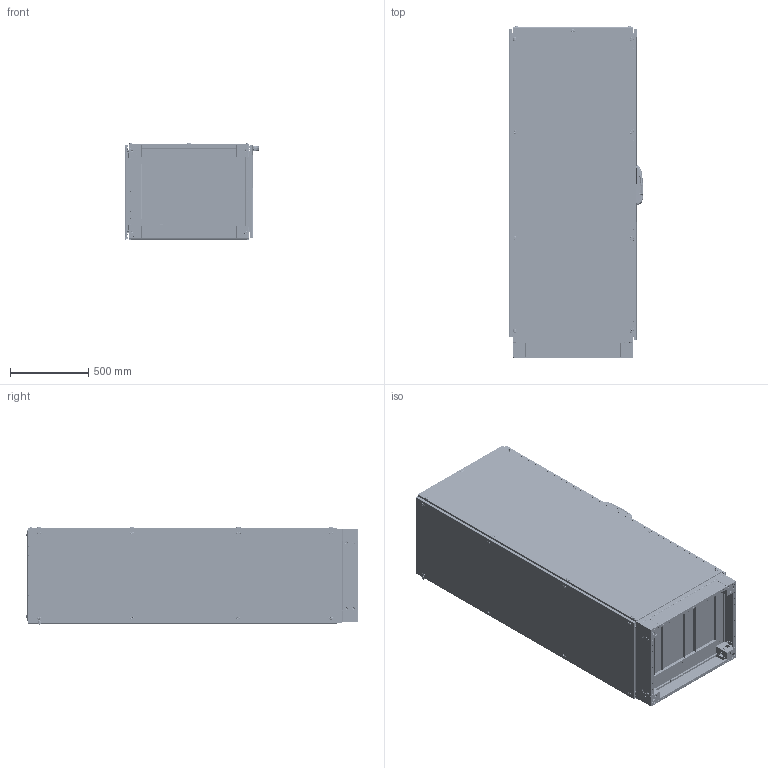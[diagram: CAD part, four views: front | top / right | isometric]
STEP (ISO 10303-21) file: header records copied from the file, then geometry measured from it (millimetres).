
FILE_DESCRIPTION (( 'STEP AP203' ), '1' );
FILE_NAME ('706.208 600x2000x800.STEP', '2020-04-04T15:42:09', ( '' ), ( '' ), 'SwSTEP 2.0', 'SolidWorks 2019', '' );
FILE_SCHEMA (( 'CONFIG_CONTROL_DESIGN' ));
Length unit declared in the file: millimetre
Products named in the file (127): PB 14.0004 M6 HAVÞA PLASTÝK CÝVATA; MP 18.7631 Arka Kapak; Teos-Neo MP Durdurucu; delikli profil cerceve_600x2000; BAZA KÖÞES_SAG; MP 18.7631 Kol-Cark; M6 HAVÞA PLASTÝK CÝVATA; 03-TABAN SACI SURGU_PP 12.0030 - 600; BAZA SISTEMIV2-6 baza kapaðý201550x40; socket button head cap screw_am_B18.3.4M - 8 x 1.25 x 16 SBHCS --N; 03-TABAN SACI U1 04-2012_PP 12.0040 - 600-75; kapali dikey profilkenetli_ita oluklu10-aaaaaaaaaaaa-1_600; yan arka kapak baglantý saci orta; 03-2012 sac kilit dil 10-2010 alt ust; ENINE DELIKLI PROFIL_600; flat head screw_am_B18.6.7M - M6 x 1.0 x 20 Type I Cross Recessed FHMS --20N; Mirror03-KOSE PUNT; 03-KOSE PUNT; kafes somun kafes; TEOS V2 BAZA S嵞TEM廆600X800; M6 KAFES SOMU2015; MP 18.7631 Modul; Teos-Neo MP Durdurucu Destek; mentese orta 09-201; BAZA KÖÞES_SOL; 706.208 600x2000x800; TEOS iskelet_600x2000x800; MP 18.7631 32002136; on Kapi 10-2017 2 mm dkp_PP 17.1082 600x2000; TEOS Kilit Üst Çubuk Montaj_2000H; M8 Somun Kafesi_m8; TEOS Kilit Çubuk Dili; Teos-Neo 3mm MOUNTING PLATE_TEOS MP 600x2000; kose rondela kabartmaSIZ 10; M8 KAFES SOMUN_m8; MP 18.7631 Kayar Parça; socket button head cap screw_am_B18.3.4M - 12 x 1.75 x 30 SBHCS --N; BAZA SISTEMIV2-6 baza kapaðý201550x40_TEKPAN LOGOLU; V3 -2011 DT BAZA KAPAGI yan_PP 12.0052 - 800; mentese bakýr kapak 09-201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
Assembly tree (393 placements, depth 7):
  706.208 600x2000x800
    TEOS iskelet_600x2000x800
      kapali dikey profilkenetli_ita oluklu10-aaaaaaaaaaaa-1_2000   x4
      kapali dikey profilkenetli_ita oluklu10-aaaaaaaaaaaa-1_800  x4
      kapali dikey profilkenetli_ita oluklu10-aaaaaaaaaaaa-1_600  x4
      L KOSE DESTEKorj1  x8
      kose rondela kabartmaSIZ 10  x15
      kose rondela kabartmaSIZ 12
      MP 11.0140 TEOS ALUMINYUM KOSE APPROVED 16.08.2010  x8
      M5 DÝKEY PROFÝL RONDELA  x16
      percinli taban-vidalý kapak-kose pls yok_701.680-60X80 ALT
        03-taban genislik percinli 04 - 2012 100-120_PP 12.0019 - 600  x2
        03taban derinlik percinli_PP 12.0026 - 800  x2
        03-KOSE PUNT_PP 12.0027
        03-KOSE PUNT
        Mirror03-KOSE PUNT  x2
        TEOS V2 BAZA S嵞TEM廆600X800
          BAZA KÖÞES_SAG
            V2 BAZA KOSESI2015_100
            BAZA SISTEMIV2-6 baza kapaðý201550x40_TEKPAN LOGOLU
            M6 KAFES SOMU2015
              kafes somun kafes
              somu
            M6 KAFES SOMU2015
              kafes somun kafes
              somu
          V2 -2011 DT BAZA KAPAGI ON_PP 12.0045 - 600  x2
          BAZA KÖÞES_SOL
            V2 BAZA KOSESI2015_100
            BAZA SISTEMIV2-6 baza kapaðý201550x40
            M6 KAFES SOMU2015
              kafes somun kafes
              somu
            M6 KAFES SOMU2015
              kafes somun kafes
              somu
          BAZA KÖÞES_SAG
            V2 BAZA KOSESI2015_100
            BAZA SISTEMIV2-6 baza kapaðý201550x40_TEKPAN LOGOLU
            M6 KAFES SOMU2015
              kafes somun kafes
              somu
            M6 KAFES SOMU2015
              kafes somun kafes
              somu
          BAZA KÖÞES_SOL
            V2 BAZA KOSESI2015_100
            BAZA SISTEMIV2-6 baza kapaðý201550x40
            M6 KAFES SOMU2015
              kafes somun kafes
              somu
            M6 KAFES SOMU2015
              kafes somun kafes
              somu
          V3 -2011 DT BAZA KAPAGI yan_PP 12.0052 - 800  x2
          flat head screw_am_B18.6.7M - M6 x 1.0 x 20 Type I Cross Recessed FHMS --20N  x6
        03-TABAN SACI SURGU_PP 12.0030 - 600  x2
        03-TABAN SACI U1 04-2012_PP 12.0040 - 600-75
        03-TABAN SACI U1 04-2012_PP 12.0035 - 600-200  x2
        mp aLT DAYAMA_PP 12.0094 - 800  x2
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Bounding box: 858.08 x 2117.1 x 623.59 mm (x, y, z)
Volume: 22274662.3 mm3; surface area: 24303007.9 mm2
Topology: 337 solids, 377 shells, 52750 faces, 143344 edges, 91043 vertices
Faces by surface type: plane 33474, cylinder 14319, bspline 2211, torus 1163, cone 974, sphere 609
Entity records: 717553 total; most frequent: CARTESIAN_POINT 296919, ORIENTED_EDGE 85516, DIRECTION 78897, EDGE_CURVE 42758, VECTOR 28635, LINE 28635, VERTEX_POINT 27400, AXIS2_PLACEMENT_3D 25131
